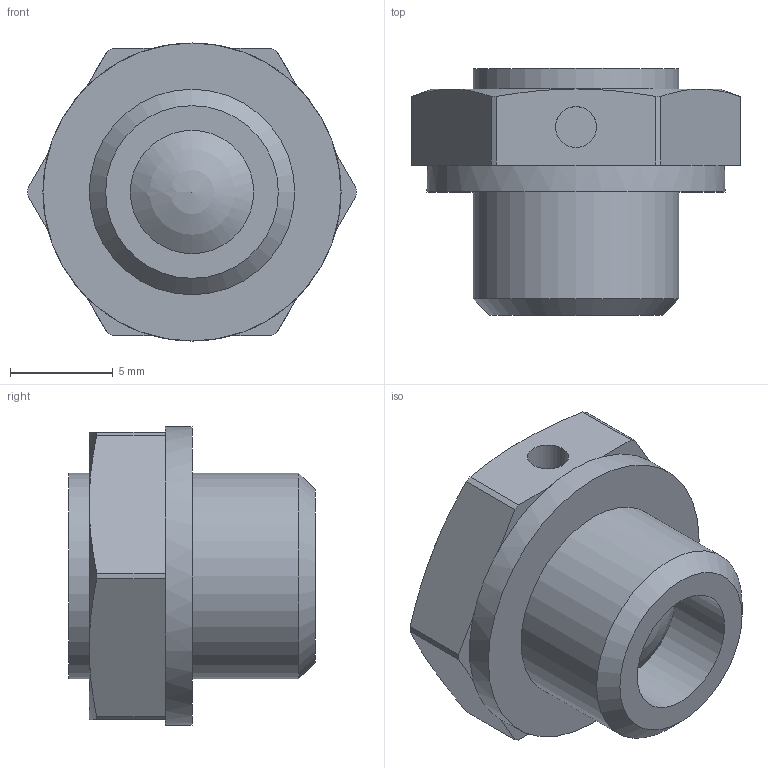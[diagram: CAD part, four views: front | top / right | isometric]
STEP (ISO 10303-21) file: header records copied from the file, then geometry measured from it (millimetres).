
FILE_DESCRIPTION( ( 'STEP AP203' ), '1' );
FILE_NAME( 'C:/Temp/Ganter_Step_05_03_2020/data/3_5/gn883/Breather valve GN 883-M10x1-20-A-MS.stp', '2020-03-12T13:42:44', ( 'License CC BY-ND 4.0' ), ( 'CADENAS' ), ' ', 'PARTsolutions', ' ' );
FILE_SCHEMA( ( 'CONFIG_CONTROL_DESIGN' ) );
Length unit declared in the file: millimetre
Products named in the file (1): _Breather valve GN 883-M10x1-20-A-MS
Bounding box: 16 x 12 x 14.5 mm (x, y, z)
Volume: 1277.4 mm3; surface area: 894.7 mm2
Topology: 1 solids, 1 shells, 42 faces, 92 edges, 55 vertices
Faces by surface type: plane 23, cylinder 11, cone 7, sphere 1
Full cylindrical faces by diameter (mm): 2 x1, 6 x1, 10 x2, 14.5 x1
Entity records: 1146 total; most frequent: CARTESIAN_POINT 218, DIRECTION 196, ORIENTED_EDGE 164, AXIS2_PLACEMENT_3D 83, EDGE_CURVE 82, VERTEX_POINT 53, EDGE_LOOP 52, FACE_OUTER_BOUND 47
